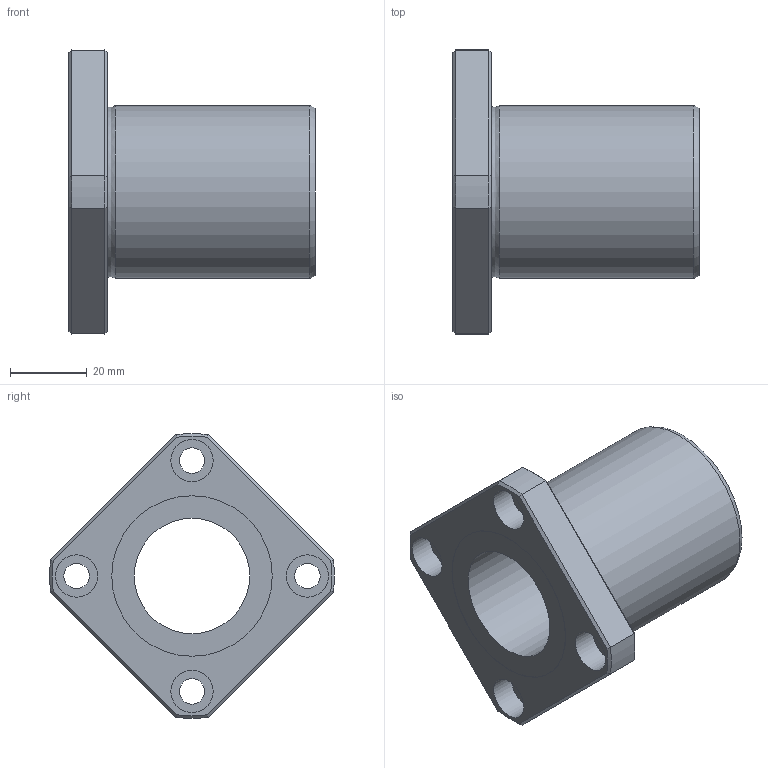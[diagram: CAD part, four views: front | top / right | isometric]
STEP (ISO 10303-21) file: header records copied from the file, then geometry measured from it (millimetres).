
FILE_DESCRIPTION((''),'2;1');
FILE_NAME('D:\製品 (図面)\カタログ用3D\リニアベアリング関連\STEP形式\LFK\LFK30B.stp','2010-06-04T08:50:17',('Tsuchiya'),(''),'Autodesk Inventor 10','Autodesk Inventor 10','');
FILE_SCHEMA(('AUTOMOTIVE_DESIGN { 1 0 10303 214 1 1 1 1 }'));
Length unit declared in the file: millimetre
Products named in the file (1): LFK30B
Bounding box: 64 x 73.95 x 73.95 mm (x, y, z)
Volume: 70252.8 mm3; surface area: 21754.1 mm2
Topology: 1 solids, 1 shells, 47 faces, 96 edges, 58 vertices
Faces by surface type: plane 21, cylinder 16, cone 8, torus 1, bspline 1
Full cylindrical faces by diameter (mm): 6.6 x4, 11 x4, 30 x1, 41.7 x2, 45 x1
Entity records: 1275 total; most frequent: CARTESIAN_POINT 298, DIRECTION 202, ORIENTED_EDGE 164, AXIS2_PLACEMENT_3D 89, EDGE_CURVE 82, EDGE_LOOP 78, VERTEX_POINT 58, FACE_OUTER_BOUND 47
